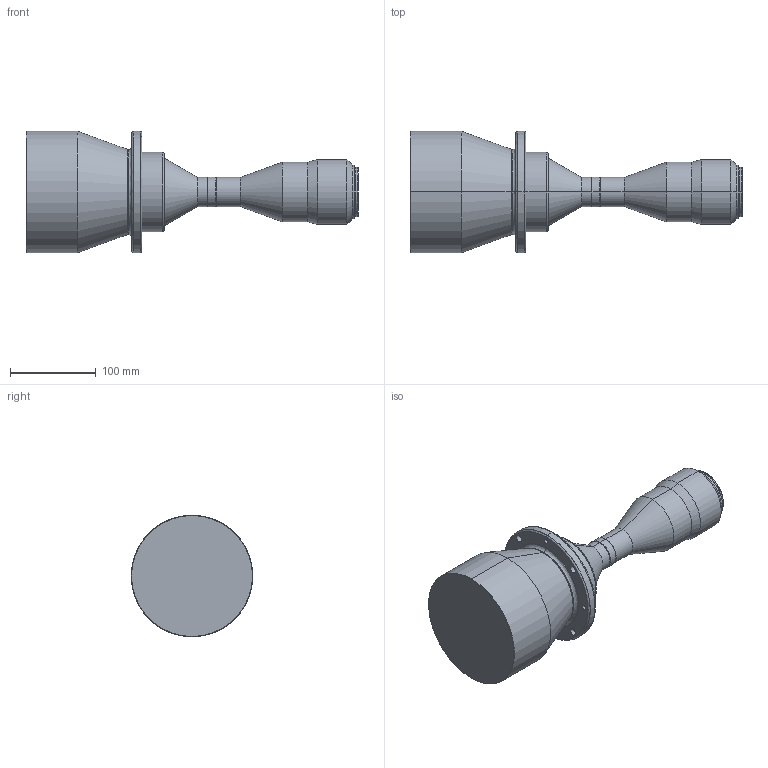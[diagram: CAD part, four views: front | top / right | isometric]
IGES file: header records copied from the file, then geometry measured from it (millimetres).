
Start section: SolidWorks IGES file using analytic representation for surfaces
Global section: file name: C:\Users\16255\Desktop\DTCM35FH-100H-M58-AL.IGS; native system: SolidWorks 2017; preprocessor: SolidWorks 2017; author: 16255; date: 211116.095425; units: millimetre
Bounding box: 388 x 142 x 142 mm (x, y, z)
Surface area: 145488.4 mm2 (no closed solid volume)
Topology: 0 solids, 0 shells, 77 faces, 1808 edges, 1808 vertices
Faces by surface type: revolution 58, bspline 19
